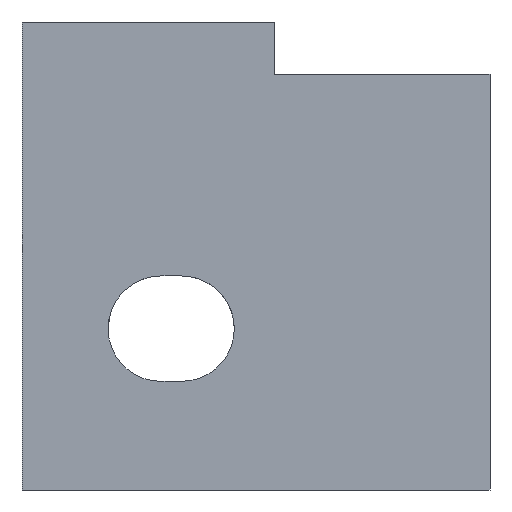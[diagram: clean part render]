
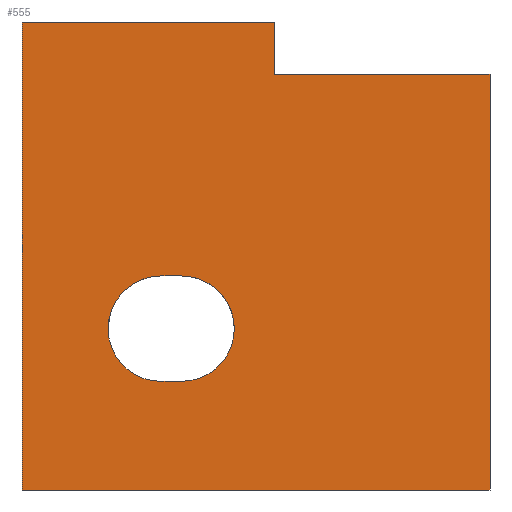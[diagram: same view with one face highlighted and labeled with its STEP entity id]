
A CAD part, left-side view. The second image highlights one B-rep face of the part: STEP entity #555.
In plain terms, the highlighted planar face has unit normal (-1, 0, 0).
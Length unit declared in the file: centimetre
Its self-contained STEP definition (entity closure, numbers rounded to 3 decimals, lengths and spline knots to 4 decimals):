
#59 = CARTESIAN_POINT ( 'NONE',  ( 0., 459.9298, 1000. ) ) ;
#68 = DIRECTION ( 'NONE',  ( 0., 0., -1. ) ) ;
#74 = DIRECTION ( 'NONE',  ( 1., 0., 0. ) ) ;
#79 = DIRECTION ( 'NONE',  ( 0., -1., 0. ) ) ;
#101 = VECTOR ( 'NONE', #819, 100. ) ;
#114 = CARTESIAN_POINT ( 'NONE',  ( 0., 658.8835, 344.7343 ) ) ;
#115 = ORIENTED_EDGE ( 'NONE', *, *, #329, .F. ) ;
#134 = ORIENTED_EDGE ( 'NONE', *, *, #1043, .F. ) ;
#159 = EDGE_CURVE ( 'NONE', #179, #385, #1177, .T. ) ;
#179 = VERTEX_POINT ( 'NONE', #469 ) ;
#191 = CARTESIAN_POINT ( 'NONE',  ( 0., 1000., 0. ) ) ;
#195 = EDGE_LOOP ( 'NONE', ( #475, #134, #115, #1018 ) ) ;
#202 = DIRECTION ( 'NONE',  ( -1., 0., 0. ) ) ;
#227 = ORIENTED_EDGE ( 'NONE', *, *, #839, .F. ) ;
#229 = ORIENTED_EDGE ( 'NONE', *, *, #159, .F. ) ;
#244 = ORIENTED_EDGE ( 'NONE', *, *, #1110, .F. ) ;
#253 = CARTESIAN_POINT ( 'NONE',  ( 0., 1000., 1000. ) ) ;
#254 = EDGE_CURVE ( 'NONE', #490, #642, #1243, .T. ) ;
#267 = PLANE ( 'NONE',  #353 ) ;
#288 = VECTOR ( 'NONE', #79, 100. ) ;
#305 = LINE ( 'NONE', #376, #288 ) ;
#329 = EDGE_CURVE ( 'NONE', #642, #401, #805, .T. ) ;
#336 = VERTEX_POINT ( 'NONE', #810 ) ;
#353 = AXIS2_PLACEMENT_3D ( 'NONE', #569, #74, #464 ) ;
#362 = DIRECTION ( 'NONE',  ( 0., 1., 0. ) ) ;
#364 = DIRECTION ( 'NONE',  ( 0., 0., -1. ) ) ;
#372 = VECTOR ( 'NONE', #1272, 100. ) ;
#376 = CARTESIAN_POINT ( 'NONE',  ( 0., 459.9298, 888.5637 ) ) ;
#380 = LINE ( 'NONE', #877, #1264 ) ;
#385 = VERTEX_POINT ( 'NONE', #59 ) ;
#401 = VERTEX_POINT ( 'NONE', #734 ) ;
#403 = CARTESIAN_POINT ( 'NONE',  ( 0., 658.8835, 232.1708 ) ) ;
#442 = DIRECTION ( 'NONE',  ( 0., 0., -1. ) ) ;
#464 = DIRECTION ( 'NONE',  ( 0., 0., -1. ) ) ;
#469 = CARTESIAN_POINT ( 'NONE',  ( 0., 1000., 1000. ) ) ;
#475 = ORIENTED_EDGE ( 'NONE', *, *, #505, .F. ) ;
#490 = VERTEX_POINT ( 'NONE', #1149 ) ;
#505 = EDGE_CURVE ( 'NONE', #1090, #490, #563, .T. ) ;
#541 = VECTOR ( 'NONE', #851, 100. ) ;
#555 = ADVANCED_FACE ( 'NONE', ( #1062, #1265 ), #267, .F. ) ;
#561 = LINE ( 'NONE', #956, #710 ) ;
#563 = LINE ( 'NONE', #959, #977 ) ;
#569 = CARTESIAN_POINT ( 'NONE',  ( 0., 1000., 1000. ) ) ;
#593 = CARTESIAN_POINT ( 'NONE',  ( 0., 1000., 1000. ) ) ;
#635 = CARTESIAN_POINT ( 'NONE',  ( 0., 459.9298, 888.5637 ) ) ;
#636 = ORIENTED_EDGE ( 'NONE', *, *, #1070, .T. ) ;
#642 = VERTEX_POINT ( 'NONE', #785 ) ;
#688 = LINE ( 'NONE', #1067, #372 ) ;
#702 = CARTESIAN_POINT ( 'NONE',  ( 0., 703.2713, 344.7343 ) ) ;
#710 = VECTOR ( 'NONE', #68, 100. ) ;
#734 = CARTESIAN_POINT ( 'NONE',  ( 0., 658.8835, 232.1708 ) ) ;
#751 = EDGE_LOOP ( 'NONE', ( #244, #227, #1238, #229, #636, #1050 ) ) ;
#759 = CIRCLE ( 'NONE', #1089, 112.5636 ) ;
#772 = EDGE_CURVE ( 'NONE', #826, #336, #688, .T. ) ;
#785 = CARTESIAN_POINT ( 'NONE',  ( 0., 703.2713, 232.1708 ) ) ;
#786 = EDGE_CURVE ( 'NONE', #385, #1171, #380, .T. ) ;
#805 = LINE ( 'NONE', #403, #101 ) ;
#810 = CARTESIAN_POINT ( 'NONE',  ( 0., 0., 0. ) ) ;
#819 = DIRECTION ( 'NONE',  ( 0., -1., 0. ) ) ;
#826 = VERTEX_POINT ( 'NONE', #191 ) ;
#839 = EDGE_CURVE ( 'NONE', #1171, #918, #305, .T. ) ;
#851 = DIRECTION ( 'NONE',  ( 0., 0., -1. ) ) ;
#873 = DIRECTION ( 'NONE',  ( 0., -1., 0. ) ) ;
#877 = CARTESIAN_POINT ( 'NONE',  ( 0., 459.9298, 888.5637 ) ) ;
#892 = VECTOR ( 'NONE', #873, 100. ) ;
#916 = CARTESIAN_POINT ( 'NONE',  ( 0., 0., 888.5637 ) ) ;
#918 = VERTEX_POINT ( 'NONE', #916 ) ;
#950 = LINE ( 'NONE', #253, #541 ) ;
#956 = CARTESIAN_POINT ( 'NONE',  ( 0., 0., 1000. ) ) ;
#959 = CARTESIAN_POINT ( 'NONE',  ( 0., 703.2713, 457.2979 ) ) ;
#977 = VECTOR ( 'NONE', #362, 100. ) ;
#1018 = ORIENTED_EDGE ( 'NONE', *, *, #254, .F. ) ;
#1043 = EDGE_CURVE ( 'NONE', #401, #1090, #759, .T. ) ;
#1050 = ORIENTED_EDGE ( 'NONE', *, *, #772, .T. ) ;
#1062 = FACE_BOUND ( 'NONE', #195, .T. ) ;
#1067 = CARTESIAN_POINT ( 'NONE',  ( 0., 1000., 0. ) ) ;
#1070 = EDGE_CURVE ( 'NONE', #179, #826, #950, .T. ) ;
#1071 = AXIS2_PLACEMENT_3D ( 'NONE', #702, #202, #1085 ) ;
#1085 = DIRECTION ( 'NONE',  ( 0., 0., -1. ) ) ;
#1089 = AXIS2_PLACEMENT_3D ( 'NONE', #114, #1139, #442 ) ;
#1090 = VERTEX_POINT ( 'NONE', #1244 ) ;
#1110 = EDGE_CURVE ( 'NONE', #918, #336, #561, .T. ) ;
#1139 = DIRECTION ( 'NONE',  ( -1., 0., 0. ) ) ;
#1149 = CARTESIAN_POINT ( 'NONE',  ( 0., 703.2713, 457.2979 ) ) ;
#1171 = VERTEX_POINT ( 'NONE', #635 ) ;
#1177 = LINE ( 'NONE', #593, #892 ) ;
#1238 = ORIENTED_EDGE ( 'NONE', *, *, #786, .F. ) ;
#1243 = CIRCLE ( 'NONE', #1071, 112.5636 ) ;
#1244 = CARTESIAN_POINT ( 'NONE',  ( 0., 658.8835, 457.2979 ) ) ;
#1264 = VECTOR ( 'NONE', #364, 100. ) ;
#1265 = FACE_OUTER_BOUND ( 'NONE', #751, .T. ) ;
#1272 = DIRECTION ( 'NONE',  ( 0., -1., 0. ) ) ;
